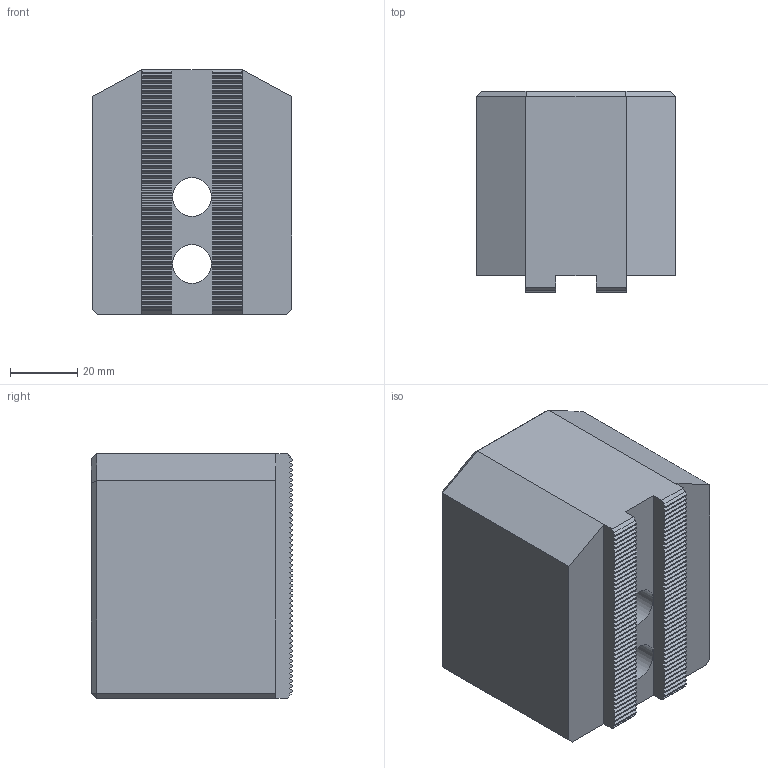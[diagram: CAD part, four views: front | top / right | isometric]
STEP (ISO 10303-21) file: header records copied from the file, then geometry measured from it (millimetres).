
FILE_DESCRIPTION(/* description */ (''),/* implementation_level */ '2;1');
FILE_NAME(/* name */ 'SC-06W60H60.stp',/* time_stamp */ '2024-09-11T16:14:14+03:00',/* author */ ('KanaanMD'),/* organization */ (''),/* preprocessor_version */ 'ST-DEVELOPER v19.2',/* originating_system */ 'Autodesk Inventor 2024',/* authorisation */ '');
FILE_SCHEMA (('AUTOMOTIVE_DESIGN { 1 0 10303 214 3 1 1 }'));
Length unit declared in the file: millimetre
Products named in the file (1): SC-06W60H60
Bounding box: 59.5 x 60 x 73 mm (x, y, z)
Volume: 215684.5 mm3; surface area: 29532.7 mm2
Topology: 1 solids, 1 shells, 326 faces, 952 edges, 630 vertices
Faces by surface type: plane 320, cylinder 4, cone 2
Full cylindrical faces by diameter (mm): 11.6 x2, 17 x2
Entity records: 10607 total; most frequent: CARTESIAN_POINT 1909, ORIENTED_EDGE 1904, DIRECTION 1618, EDGE_CURVE 952, LINE 940, VECTOR 940, VERTEX_POINT 630, AXIS2_PLACEMENT_3D 339
